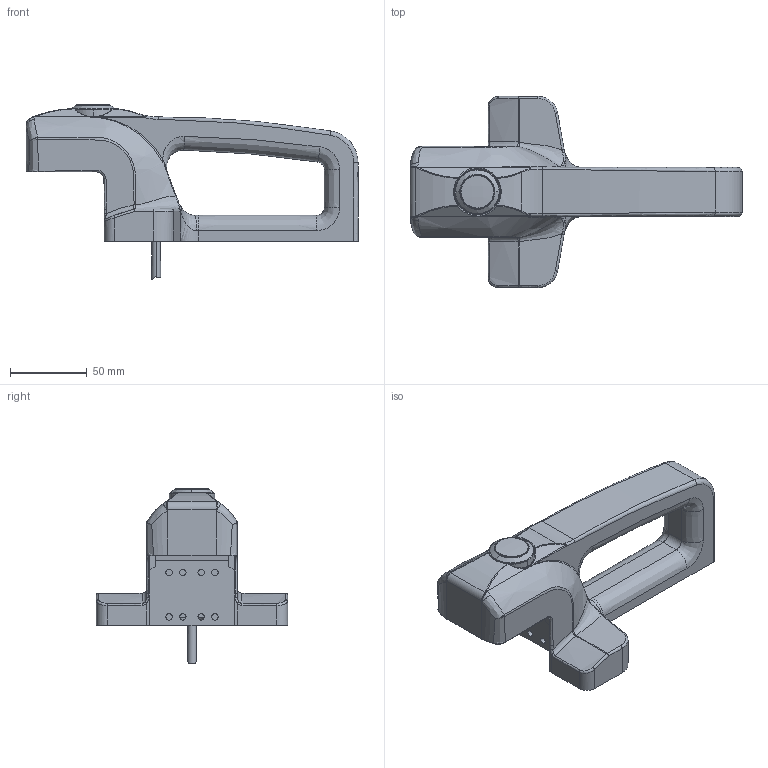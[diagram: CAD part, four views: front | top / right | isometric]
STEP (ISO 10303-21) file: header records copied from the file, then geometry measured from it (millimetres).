
FILE_DESCRIPTION (( 'STEP AP203' ), '1' );
FILE_NAME ('ZF_STEP_AN Gxx001A_PNx.step', '2022-02-02T16:34:01', ( '' ), ( '' ), 'SwSTEP 2.0', 'SolidWorks 2020', '' );
FILE_SCHEMA (( 'CONFIG_CONTROL_DESIGN' ));
Length unit declared in the file: millimetre
Products named in the file (5): ZF_STEP_AN Gxx001A_PNx; ZF_STEP_AN Gxx001A; Cavo_AN; ZF_STEP_AN Gxx00x_plastiche; ZF_STEP_VN_NG-AC26001_A17_bianco
Assembly tree (4 placements, depth 3):
  ZF_STEP_AN Gxx001A_PNx
    ZF_STEP_AN Gxx001A
      ZF_STEP_AN Gxx00x_plastiche
      ZF_STEP_VN_NG-AC26001_A17_bianco
    Cavo_AN
Bounding box: 217 x 125 x 114.23 mm (x, y, z)
Volume: 404578.2 mm3; surface area: 77919.8 mm2
Topology: 3 solids, 3 shells, 376 faces, 948 edges, 598 vertices
Faces by surface type: bspline 148, plane 109, cylinder 103, cone 12, torus 4
Entity records: 21656 total; most frequent: CARTESIAN_POINT 13447, ORIENTED_EDGE 1884, DIRECTION 1216, EDGE_CURVE 942, VERTEX_POINT 598, AXIS2_PLACEMENT_3D 463, EDGE_LOOP 408, FACE_OUTER_BOUND 376
